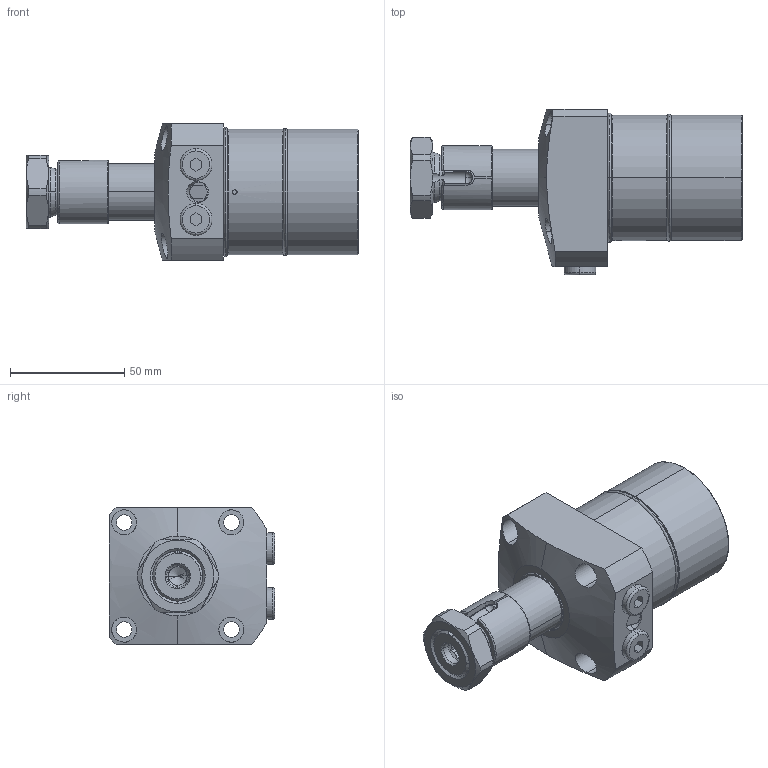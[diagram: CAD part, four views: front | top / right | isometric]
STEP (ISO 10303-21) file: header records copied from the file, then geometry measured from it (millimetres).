
FILE_DESCRIPTION(/* description */ (''),/* implementation_level */ '2;1');
FILE_NAME(/* name */ 'KTRW55-RH.stp',/* time_stamp */ '2022-11-18T12:58:34+08:00',/* author */ (''),/* organization */ (''),/* preprocessor_version */ 'ST-DEVELOPER v16.7',/* originating_system */ 'SIEMENS PLM Software NX 12.0',/* authorisation */ '');
FILE_SCHEMA (('AP203_CONFIGURATION_CONTROLLED_3D_DESIGN_OF_MECHANICAL_PARTS_AND_ASSEMBLIES_MIM_LF { 1 0 10303 403 2 1 2}'));
Length unit declared in the file: millimetre
Products named in the file (7): KTRW55-RH-02; KTRW55-RH-01; KTRW55-RH-03; KTRW55-RH-05; KTRW55-RH-06; KTRW55-RH-04; LHW0551-CLH_step
Assembly tree (9 placements, depth 2):
  LHW0551-CLH_step
    KTRW55-RH-04  x2
    KTRW55-RH-06  x3
    KTRW55-RH-05
    KTRW55-RH-03
    KTRW55-RH-01
    KTRW55-RH-02
Bounding box: 145.5 x 72.5 x 60 mm (x, y, z)
Volume: 270340.5 mm3; surface area: 46176.3 mm2
Topology: 11 solids, 11 shells, 345 faces, 775 edges, 475 vertices
Faces by surface type: cylinder 101, plane 101, torus 74, cone 67, sphere 2
Entity records: 9227 total; most frequent: CARTESIAN_POINT 1950, DIRECTION 1442, ORIENTED_EDGE 1262, EDGE_CURVE 631, AXIS2_PLACEMENT_3D 607, VERTEX_POINT 391, CIRCLE 320, EDGE_LOOP 314
